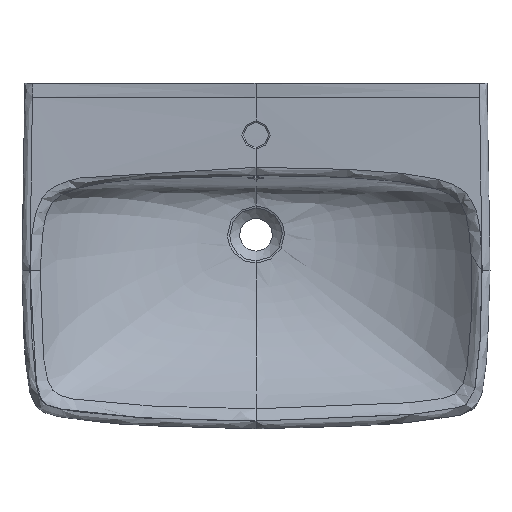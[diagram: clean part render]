
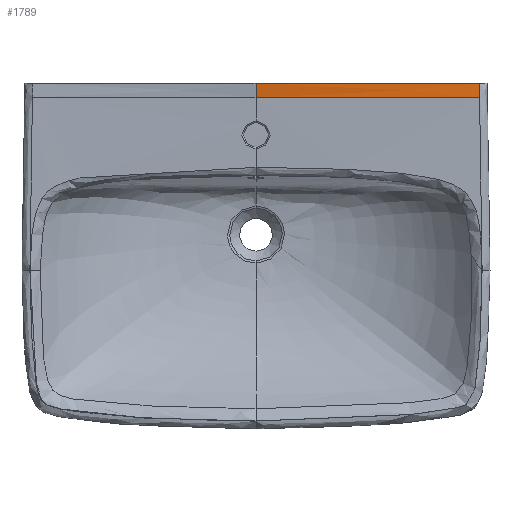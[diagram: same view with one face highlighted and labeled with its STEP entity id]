
A CAD part, top view. The second image highlights one B-rep face of the part: STEP entity #1789.
In plain terms, the highlighted free-form (B-spline) face has degree [3, 3] with [5, 4] control points.
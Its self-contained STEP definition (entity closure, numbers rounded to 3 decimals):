
#26=B_SPLINE_SURFACE_WITH_KNOTS('',3,3,((#38390,#38391,#38392,#38393),(#38394,
#38395,#38396,#38397),(#38398,#38399,#38400,#38401),(#38402,#38403,#38404,
#38405),(#38406,#38407,#38408,#38409)),.UNSPECIFIED.,.F.,.F.,.F.,(4,1,4),
(4,4),(0.,0.5,1.),(0.,1.),.UNSPECIFIED.);
#141=B_SPLINE_CURVE_WITH_KNOTS('',3,(#35308,#35309,#35310,#35311),
 .UNSPECIFIED.,.F.,.F.,(4,4),(0.,1.),.UNSPECIFIED.);
#150=B_SPLINE_CURVE_WITH_KNOTS('',3,(#38412,#38413,#38414,#38415,#38416,
#38417,#38418,#38419,#38420,#38421,#38422,#38423,#38424,#38425,#38426,#38427),
 .UNSPECIFIED.,.F.,.F.,(4,2,2,2,2,2,2,4),(0.,0.143,0.289,
0.438,0.592,0.749,0.913,
1.),.UNSPECIFIED.);
#151=B_SPLINE_CURVE_WITH_KNOTS('',3,(#38428,#38429,#38430,#38431),
 .UNSPECIFIED.,.F.,.F.,(4,4),(0.,1.),.UNSPECIFIED.);
#152=B_SPLINE_CURVE_WITH_KNOTS('',3,(#38432,#38433,#38434,#38435,#38436),
 .UNSPECIFIED.,.F.,.F.,(4,1,4),(0.,0.5,1.),.UNSPECIFIED.);
#341=FACE_OUTER_BOUND('',#448,.T.);
#448=EDGE_LOOP('',(#1460,#1461,#1462,#1463));
#773=VERTEX_POINT('',#35302);
#774=VERTEX_POINT('',#35307);
#780=VERTEX_POINT('',#38410);
#781=VERTEX_POINT('',#38411);
#1006=EDGE_CURVE('',#774,#773,#141,.T.);
#1015=EDGE_CURVE('',#780,#781,#150,.T.);
#1016=EDGE_CURVE('',#774,#780,#151,.T.);
#1017=EDGE_CURVE('',#781,#773,#152,.T.);
#1460=ORIENTED_EDGE('',*,*,#1015,.F.);
#1461=ORIENTED_EDGE('',*,*,#1016,.F.);
#1462=ORIENTED_EDGE('',*,*,#1006,.T.);
#1463=ORIENTED_EDGE('',*,*,#1017,.F.);
#1789=ADVANCED_FACE('',(#341),#26,.T.);
#35302=CARTESIAN_POINT('',(0.,0.,850.));
#35307=CARTESIAN_POINT('',(310.,0.,848.038));
#35308=CARTESIAN_POINT('Ctrl Pts',(310.,0.,
848.038));
#35309=CARTESIAN_POINT('Ctrl Pts',(206.337,0.,
848.036));
#35310=CARTESIAN_POINT('Ctrl Pts',(103.168,0.,
850.));
#35311=CARTESIAN_POINT('Ctrl Pts',(0.,0.,
850.));
#38390=CARTESIAN_POINT('Ctrl Pts',(310.664,-19.998,848.04));
#38391=CARTESIAN_POINT('Ctrl Pts',(206.377,-19.999,848.039));
#38392=CARTESIAN_POINT('Ctrl Pts',(102.941,-20.001,847.477));
#38393=CARTESIAN_POINT('Ctrl Pts',(0.,-20.002,
847.477));
#38394=CARTESIAN_POINT('Ctrl Pts',(310.56,-16.665,848.04));
#38395=CARTESIAN_POINT('Ctrl Pts',(206.375,-16.658,848.039));
#38396=CARTESIAN_POINT('Ctrl Pts',(102.981,-16.647,847.565));
#38397=CARTESIAN_POINT('Ctrl Pts',(0.,-16.643,
847.565));
#38398=CARTESIAN_POINT('Ctrl Pts',(310.345,-9.999,848.039));
#38399=CARTESIAN_POINT('Ctrl Pts',(206.366,-9.973,848.262));
#38400=CARTESIAN_POINT('Ctrl Pts',(103.059,-9.96,848.408));
#38401=CARTESIAN_POINT('Ctrl Pts',(0.,-9.976,
848.406));
#38402=CARTESIAN_POINT('Ctrl Pts',(310.117,-3.333,848.039));
#38403=CARTESIAN_POINT('Ctrl Pts',(206.348,-3.336,848.259));
#38404=CARTESIAN_POINT('Ctrl Pts',(103.133,-3.333,849.58));
#38405=CARTESIAN_POINT('Ctrl Pts',(0.,-3.334,
849.579));
#38406=CARTESIAN_POINT('Ctrl Pts',(310.,0.,
848.038));
#38407=CARTESIAN_POINT('Ctrl Pts',(206.337,0.,
848.036));
#38408=CARTESIAN_POINT('Ctrl Pts',(103.168,0.,
850.));
#38409=CARTESIAN_POINT('Ctrl Pts',(0.,0.,
850.));
#38410=CARTESIAN_POINT('',(310.664,-19.999,848.04));
#38411=CARTESIAN_POINT('',(0.,-20.002,847.477));
#38412=CARTESIAN_POINT('Ctrl Pts',(310.664,-19.998,848.04));
#38413=CARTESIAN_POINT('Ctrl Pts',(295.836,-19.998,848.04));
#38414=CARTESIAN_POINT('Ctrl Pts',(281.007,-19.999,848.028));
#38415=CARTESIAN_POINT('Ctrl Pts',(251.083,-19.999,847.989));
#38416=CARTESIAN_POINT('Ctrl Pts',(235.988,-19.999,847.96));
#38417=CARTESIAN_POINT('Ctrl Pts',(205.496,-19.999,847.892));
#38418=CARTESIAN_POINT('Ctrl Pts',(190.099,-20.,847.853));
#38419=CARTESIAN_POINT('Ctrl Pts',(158.756,-20.,847.769));
#38420=CARTESIAN_POINT('Ctrl Pts',(142.81,-20.,847.725));
#38421=CARTESIAN_POINT('Ctrl Pts',(110.549,-20.001,847.64));
#38422=CARTESIAN_POINT('Ctrl Pts',(94.234,-20.001,847.599));
#38423=CARTESIAN_POINT('Ctrl Pts',(60.922,-20.001,847.531));
#38424=CARTESIAN_POINT('Ctrl Pts',(43.925,-20.001,847.504));
#38425=CARTESIAN_POINT('Ctrl Pts',(17.952,-20.002,847.481));
#38426=CARTESIAN_POINT('Ctrl Pts',(8.976,-20.002,847.477));
#38427=CARTESIAN_POINT('Ctrl Pts',(0.,-20.002,
847.477));
#38428=CARTESIAN_POINT('Ctrl Pts',(310.,0.,
848.038));
#38429=CARTESIAN_POINT('Ctrl Pts',(310.234,-6.671,848.039));
#38430=CARTESIAN_POINT('Ctrl Pts',(310.455,-13.337,848.04));
#38431=CARTESIAN_POINT('Ctrl Pts',(310.664,-19.998,848.04));
#38432=CARTESIAN_POINT('Ctrl Pts',(0.,-20.002,
847.477));
#38433=CARTESIAN_POINT('Ctrl Pts',(0.,-16.643,
847.565));
#38434=CARTESIAN_POINT('Ctrl Pts',(0.,-9.976,
848.406));
#38435=CARTESIAN_POINT('Ctrl Pts',(0.,-3.334,
849.579));
#38436=CARTESIAN_POINT('Ctrl Pts',(0.,0.,
850.));
